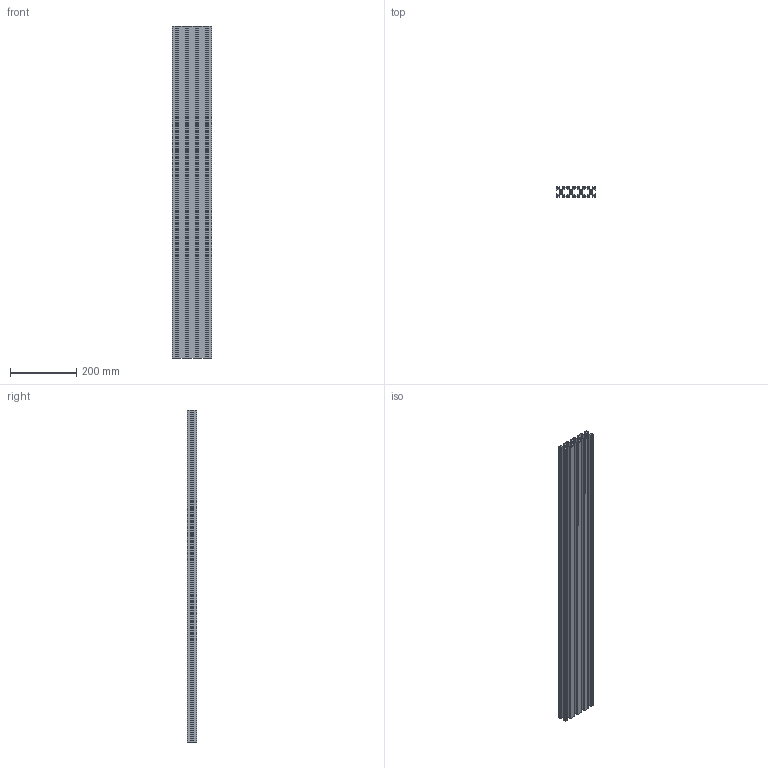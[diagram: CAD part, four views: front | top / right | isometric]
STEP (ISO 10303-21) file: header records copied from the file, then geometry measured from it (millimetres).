
FILE_DESCRIPTION (( 'STEP AP214' ), '1' );
FILE_NAME ('30õ120.STEP', '2016-11-27T12:28:54', ( '' ), ( '' ), 'SwSTEP 2.0', 'SolidWorks 2014', '' );
FILE_SCHEMA (( 'AUTOMOTIVE_DESIGN' ));
Length unit declared in the file: millimetre
Products named in the file (2): 30õ120
Bounding box: 120 x 30 x 1000 mm (x, y, z)
Volume: 996081 mm3; surface area: 1067958.5 mm2
Topology: 1 solids, 1 shells, 334 faces, 996 edges, 664 vertices
Faces by surface type: plane 294, cylinder 40
Entity records: 11153 total; most frequent: CARTESIAN_POINT 1996, ORIENTED_EDGE 1992, DIRECTION 1748, EDGE_CURVE 996, VECTOR 916, LINE 916, VERTEX_POINT 664, AXIS2_PLACEMENT_3D 416
